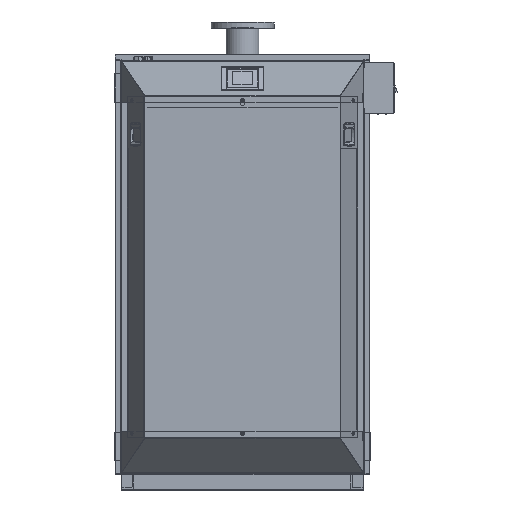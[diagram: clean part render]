
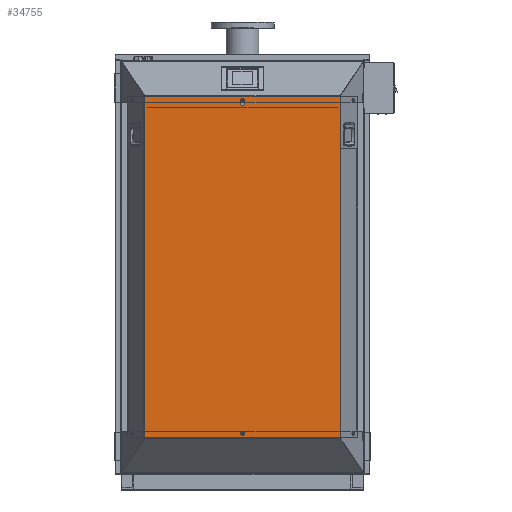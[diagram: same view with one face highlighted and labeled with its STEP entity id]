
A CAD part, top view. The second image highlights one B-rep face of the part: STEP entity #34755.
In plain terms, the highlighted planar face has unit normal (0, 0, 1).
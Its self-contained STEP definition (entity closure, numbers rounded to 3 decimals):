
#2802 = DIRECTION ( 'NONE',  ( 0., 0., 1. ) ) ;
#2879 = VECTOR ( 'NONE', #26883, 1000. ) ;
#4325 = VERTEX_POINT ( 'NONE', #22460 ) ;
#5132 = ORIENTED_EDGE ( 'NONE', *, *, #16279, .T. ) ;
#6235 = VECTOR ( 'NONE', #68753, 1000. ) ;
#6306 = DIRECTION ( 'NONE',  ( 1., 0., 0. ) ) ;
#6844 = DIRECTION ( 'NONE',  ( 0., 0., 1. ) ) ;
#7518 = LINE ( 'NONE', #62286, #71470 ) ;
#8395 = DIRECTION ( 'NONE',  ( 1., 0., 0. ) ) ;
#8428 = VECTOR ( 'NONE', #48492, 1000. ) ;
#8632 = ORIENTED_EDGE ( 'NONE', *, *, #45828, .F. ) ;
#10690 = VERTEX_POINT ( 'NONE', #15336 ) ;
#10876 = CARTESIAN_POINT ( 'NONE',  ( -820.761, -836.475, 1249.733 ) ) ;
#10930 = EDGE_CURVE ( 'NONE', #67804, #63870, #19022, .T. ) ;
#11704 = ORIENTED_EDGE ( 'NONE', *, *, #24885, .F. ) ;
#11872 = DIRECTION ( 'NONE',  ( -1., 0., 0. ) ) ;
#12748 = VECTOR ( 'NONE', #28520, 1000. ) ;
#13448 = CIRCLE ( 'NONE', #18585, 4. ) ;
#15336 = CARTESIAN_POINT ( 'NONE',  ( -820.761, 329.525, 1249.733 ) ) ;
#15710 = CARTESIAN_POINT ( 'NONE',  ( -1160.311, 344.025, 1249.733 ) ) ;
#15902 = VECTOR ( 'NONE', #11872, 1000. ) ;
#16279 = EDGE_CURVE ( 'NONE', #54405, #61851, #36535, .T. ) ;
#17130 = DIRECTION ( 'NONE',  ( 0., -1., 0. ) ) ;
#17354 = CARTESIAN_POINT ( 'NONE',  ( -480.581, 344.025, 1249.733 ) ) ;
#18353 = VERTEX_POINT ( 'NONE', #57734 ) ;
#18585 = AXIS2_PLACEMENT_3D ( 'NONE', #43911, #35342, #51420 ) ;
#19022 = LINE ( 'NONE', #75772, #6235 ) ;
#20645 = CARTESIAN_POINT ( 'NONE',  ( -489.211, 344.025, 1249.733 ) ) ;
#21807 = CARTESIAN_POINT ( 'NONE',  ( -828.761, 329.525, 1249.733 ) ) ;
#21867 = PLANE ( 'NONE',  #54360 ) ;
#22460 = CARTESIAN_POINT ( 'NONE',  ( -489.211, 344.025, 1249.733 ) ) ;
#23447 = VECTOR ( 'NONE', #103610, 1000. ) ;
#24885 = EDGE_CURVE ( 'NONE', #10690, #25291, #100926, .T. ) ;
#25291 = VERTEX_POINT ( 'NONE', #21807 ) ;
#26883 = DIRECTION ( 'NONE',  ( 1., 0., 0. ) ) ;
#28292 = DIRECTION ( 'NONE',  ( 0., 0., 1. ) ) ;
#28520 = DIRECTION ( 'NONE',  ( -1., 0., 0. ) ) ;
#28711 = ORIENTED_EDGE ( 'NONE', *, *, #65030, .T. ) ;
#30452 = VECTOR ( 'NONE', #105642, 1000. ) ;
#30681 = CARTESIAN_POINT ( 'NONE',  ( -1160.311, -850.975, 1249.733 ) ) ;
#31245 = LINE ( 'NONE', #81026, #30452 ) ;
#31444 = CARTESIAN_POINT ( 'NONE',  ( -1160.311, -850.975, 1249.733 ) ) ;
#33901 = VERTEX_POINT ( 'NONE', #10876 ) ;
#34755 = ADVANCED_FACE ( 'NONE', ( #86631, #53968, #61458 ), #21867, .T. ) ;
#35248 = VERTEX_POINT ( 'NONE', #87549 ) ;
#35342 = DIRECTION ( 'NONE',  ( 0., 0., -1. ) ) ;
#36535 = LINE ( 'NONE', #44057, #12748 ) ;
#37213 = LINE ( 'NONE', #20645, #23447 ) ;
#37906 = DIRECTION ( 'NONE',  ( 1., 0., 0. ) ) ;
#39426 = LINE ( 'NONE', #56001, #8428 ) ;
#39630 = CARTESIAN_POINT ( 'NONE',  ( -480.581, -850.975, 1249.733 ) ) ;
#41059 = AXIS2_PLACEMENT_3D ( 'NONE', #52563, #2802, #93804 ) ;
#43911 = CARTESIAN_POINT ( 'NONE',  ( -824.761, -836.475, 1249.733 ) ) ;
#44057 = CARTESIAN_POINT ( 'NONE',  ( -1169.011, 344.025, 1249.733 ) ) ;
#45053 = CARTESIAN_POINT ( 'NONE',  ( -1169.011, 344.025, 1249.733 ) ) ;
#45828 = EDGE_CURVE ( 'NONE', #25291, #18353, #31245, .T. ) ;
#46438 = LINE ( 'NONE', #31444, #76362 ) ;
#47109 = EDGE_CURVE ( 'NONE', #61851, #67804, #7518, .T. ) ;
#47752 = CARTESIAN_POINT ( 'NONE',  ( -489.211, -850.975, 1249.733 ) ) ;
#48492 = DIRECTION ( 'NONE',  ( 0., 1., 0. ) ) ;
#50724 = AXIS2_PLACEMENT_3D ( 'NONE', #89255, #6844, #8395 ) ;
#50850 = EDGE_LOOP ( 'NONE', ( #28711 ) ) ;
#51420 = DIRECTION ( 'NONE',  ( 1., 0., 0. ) ) ;
#52563 = CARTESIAN_POINT ( 'NONE',  ( -824.761, 329.525, 1249.733 ) ) ;
#53968 = FACE_OUTER_BOUND ( 'NONE', #61339, .T. ) ;
#54360 = AXIS2_PLACEMENT_3D ( 'NONE', #71117, #28292, #37906 ) ;
#54405 = VERTEX_POINT ( 'NONE', #15710 ) ;
#56001 = CARTESIAN_POINT ( 'NONE',  ( -820.761, -850.975, 1249.733 ) ) ;
#56720 = DIRECTION ( 'NONE',  ( 0., 1., 0. ) ) ;
#57139 = EDGE_CURVE ( 'NONE', #63870, #78186, #46438, .T. ) ;
#57734 = CARTESIAN_POINT ( 'NONE',  ( -828.761, 326.454, 1249.733 ) ) ;
#57751 = CIRCLE ( 'NONE', #50724, 8. ) ;
#59449 = VECTOR ( 'NONE', #56720, 1000. ) ;
#59856 = CARTESIAN_POINT ( 'NONE',  ( -1168.941, -850.975, 1249.733 ) ) ;
#60106 = EDGE_LOOP ( 'NONE', ( #11704, #103388, #68095, #8632 ) ) ;
#61117 = LINE ( 'NONE', #45053, #15902 ) ;
#61339 = EDGE_LOOP ( 'NONE', ( #66394, #74810, #5132, #104516, #75668, #75967, #70526, #97190 ) ) ;
#61458 = FACE_BOUND ( 'NONE', #60106, .T. ) ;
#61851 = VERTEX_POINT ( 'NONE', #91299 ) ;
#62286 = CARTESIAN_POINT ( 'NONE',  ( -1168.941, 344.025, 1249.733 ) ) ;
#63870 = VERTEX_POINT ( 'NONE', #30681 ) ;
#64275 = EDGE_CURVE ( 'NONE', #81512, #100235, #105980, .T. ) ;
#65030 = EDGE_CURVE ( 'NONE', #33901, #33901, #13448, .T. ) ;
#65422 = LINE ( 'NONE', #100242, #2879 ) ;
#66394 = ORIENTED_EDGE ( 'NONE', *, *, #87257, .T. ) ;
#66959 = CARTESIAN_POINT ( 'NONE',  ( -480.581, -850.975, 1249.733 ) ) ;
#67804 = VERTEX_POINT ( 'NONE', #59856 ) ;
#68095 = ORIENTED_EDGE ( 'NONE', *, *, #94330, .F. ) ;
#68753 = DIRECTION ( 'NONE',  ( 1., 0., 0. ) ) ;
#70526 = ORIENTED_EDGE ( 'NONE', *, *, #92830, .T. ) ;
#71117 = CARTESIAN_POINT ( 'NONE',  ( -1169.011, -850.975, 1249.733 ) ) ;
#71470 = VECTOR ( 'NONE', #17130, 1000. ) ;
#74810 = ORIENTED_EDGE ( 'NONE', *, *, #79380, .T. ) ;
#75668 = ORIENTED_EDGE ( 'NONE', *, *, #10930, .T. ) ;
#75772 = CARTESIAN_POINT ( 'NONE',  ( -1169.011, -850.975, 1249.733 ) ) ;
#75967 = ORIENTED_EDGE ( 'NONE', *, *, #57139, .T. ) ;
#76362 = VECTOR ( 'NONE', #6306, 1000. ) ;
#78186 = VERTEX_POINT ( 'NONE', #47752 ) ;
#79380 = EDGE_CURVE ( 'NONE', #4325, #54405, #37213, .T. ) ;
#81026 = CARTESIAN_POINT ( 'NONE',  ( -828.761, -850.975, 1249.733 ) ) ;
#81512 = VERTEX_POINT ( 'NONE', #66959 ) ;
#84196 = EDGE_CURVE ( 'NONE', #35248, #10690, #39426, .T. ) ;
#86631 = FACE_BOUND ( 'NONE', #50850, .T. ) ;
#87257 = EDGE_CURVE ( 'NONE', #100235, #4325, #61117, .T. ) ;
#87549 = CARTESIAN_POINT ( 'NONE',  ( -820.761, 326.454, 1249.733 ) ) ;
#89255 = CARTESIAN_POINT ( 'NONE',  ( -824.761, 319.525, 1249.733 ) ) ;
#91299 = CARTESIAN_POINT ( 'NONE',  ( -1168.941, 344.025, 1249.733 ) ) ;
#92830 = EDGE_CURVE ( 'NONE', #78186, #81512, #65422, .T. ) ;
#93804 = DIRECTION ( 'NONE',  ( 1., 0., 0. ) ) ;
#94330 = EDGE_CURVE ( 'NONE', #18353, #35248, #57751, .T. ) ;
#97190 = ORIENTED_EDGE ( 'NONE', *, *, #64275, .T. ) ;
#100235 = VERTEX_POINT ( 'NONE', #17354 ) ;
#100242 = CARTESIAN_POINT ( 'NONE',  ( -1169.011, -850.975, 1249.733 ) ) ;
#100926 = CIRCLE ( 'NONE', #41059, 4. ) ;
#103388 = ORIENTED_EDGE ( 'NONE', *, *, #84196, .F. ) ;
#103610 = DIRECTION ( 'NONE',  ( -1., 0., 0. ) ) ;
#104516 = ORIENTED_EDGE ( 'NONE', *, *, #47109, .T. ) ;
#105642 = DIRECTION ( 'NONE',  ( 0., -1., 0. ) ) ;
#105980 = LINE ( 'NONE', #39630, #59449 ) ;
